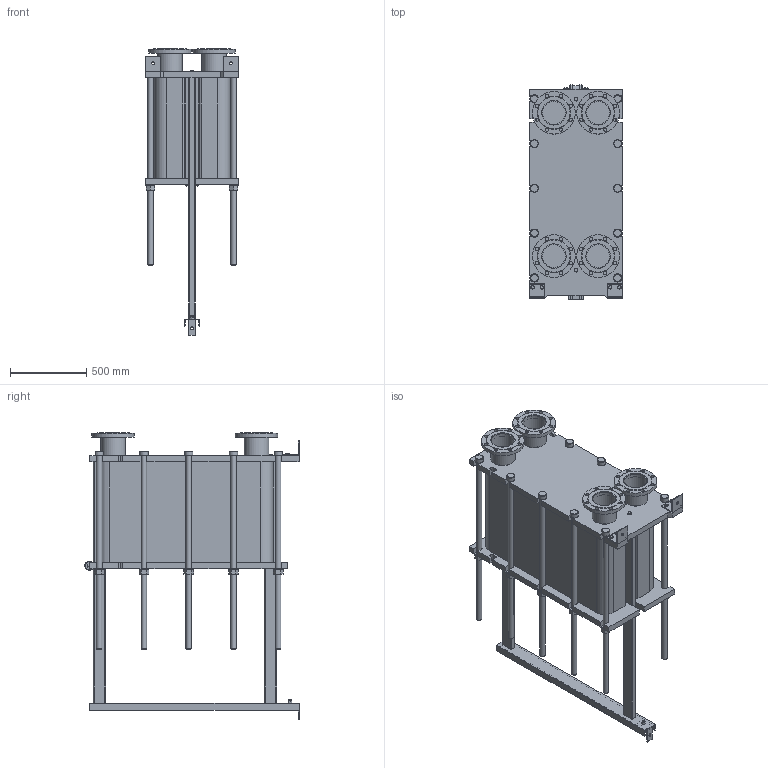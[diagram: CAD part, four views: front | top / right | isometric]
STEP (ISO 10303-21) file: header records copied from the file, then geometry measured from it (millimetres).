
FILE_DESCRIPTION(/* description */ (''),/* implementation_level */ '2;1');
FILE_NAME(/* name */ 'C:\Users\zhuro\Desktop\ENCO\TO\ЭН-041\ЭН-0,5-041-192-1.stp',/* time_stamp */ '2022-06-06T11:05:51+03:00',/* author */ ('zhuro'),/* organization */ (''),/* preprocessor_version */ 'ST-DEVELOPER v18.1',/* originating_system */ 'Autodesk Inventor 2022',/* authorisation */ '');
FILE_SCHEMA (('AUTOMOTIVE_DESIGN { 1 0 10303 214 3 1 1 }'));
Length unit declared in the file: millimetre
Products named in the file (1): ЭН-0,5-041-192-1
Bounding box: 610 x 1406.5 x 1880 mm (x, y, z)
Volume: 459496680.8 mm3; surface area: 11053035.7 mm2
Topology: 52 solids, 52 shells, 711 faces, 1696 edges, 1094 vertices
Faces by surface type: plane 487, cylinder 177, cone 41, torus 6
Full cylindrical faces by diameter (mm): 8 x4, 10 x2, 16 x8, 18 x3, 22 x32, 36 x24, 50 x1, 54 x10, 60 x12, 151 x4, 161 x8, 280 x4
Entity records: 22667 total; most frequent: CARTESIAN_POINT 5230, DIRECTION 3644, ORIENTED_EDGE 3392, EDGE_CURVE 1696, AXIS2_PLACEMENT_3D 1272, LINE 1100, VECTOR 1100, VERTEX_POINT 1094
